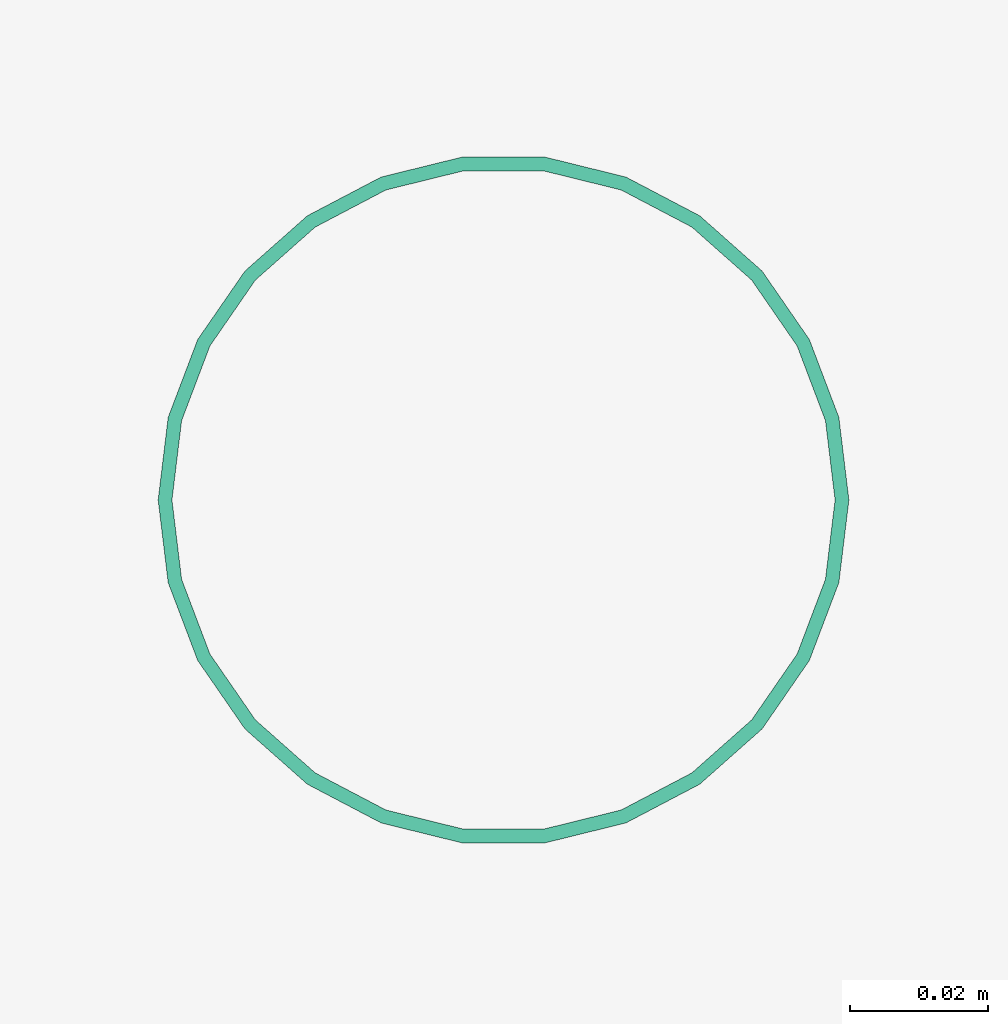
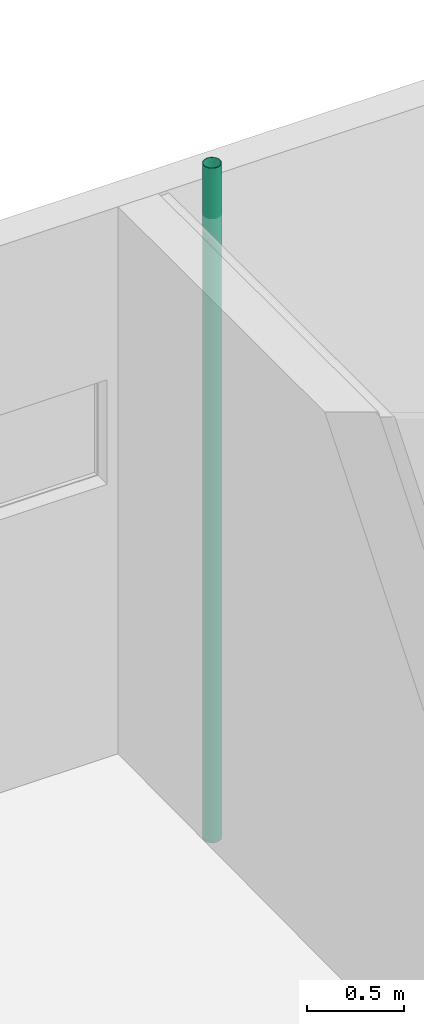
# One storey, part 71 of 77: 1 flow terminal.
"""IFC2X3 building model written with IfcOpenShell, lengths in millimetres."""

from ifc_helpers import new_model, entity, si_unit, converted_unit, derived_unit, direction, frame, origin, origin_2d_with_axis, place, context, subcontext, project, spatial, hollow_circle, extrude, source, transform, mapped, material, element, save


model = new_model("IFC2X3")

# Units and contexts
model_context = context("Model", 3, precision=0.01, world=origin(), true_north=direction((6.12303176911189e-17, 1.0)))
body_context = subcontext(model_context, "Body", "Model", "MODEL_VIEW")
ifc_project = project(units=[si_unit("LENGTHUNIT", "METRE", prefix="MILLI"), si_unit("AREAUNIT", "SQUARE_METRE"), si_unit("VOLUMEUNIT", "CUBIC_METRE"), converted_unit("PLANEANGLEUNIT", "DEGREE", entity("IfcRatioMeasure", 0.0174532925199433), si_unit("PLANEANGLEUNIT", "RADIAN"), dimensions=[0, 0, 0, 0, 0, 0, 0]), si_unit("MASSUNIT", "GRAM", prefix="KILO"), derived_unit("MASSDENSITYUNIT", [(si_unit("MASSUNIT", "GRAM", prefix="KILO"), 1), (si_unit("LENGTHUNIT", "METRE"), -3)]), si_unit("TIMEUNIT", "SECOND"), si_unit("FREQUENCYUNIT", "HERTZ"), si_unit("THERMODYNAMICTEMPERATUREUNIT", "DEGREE_CELSIUS"), derived_unit("THERMALTRANSMITTANCEUNIT", [(si_unit("MASSUNIT", "GRAM", prefix="KILO"), 1), (si_unit("THERMODYNAMICTEMPERATUREUNIT", "KELVIN"), -1), (si_unit("TIMEUNIT", "SECOND"), -3)]), derived_unit("VOLUMETRICFLOWRATEUNIT", [(si_unit("LENGTHUNIT", "METRE"), 3), (si_unit("TIMEUNIT", "SECOND"), -1)]), si_unit("ELECTRICCURRENTUNIT", "AMPERE"), si_unit("ELECTRICVOLTAGEUNIT", "VOLT"), si_unit("POWERUNIT", "WATT"), si_unit("FORCEUNIT", "NEWTON", prefix="KILO"), si_unit("ILLUMINANCEUNIT", "LUX"), si_unit("LUMINOUSFLUXUNIT", "LUMEN"), si_unit("LUMINOUSINTENSITYUNIT", "CANDELA"), derived_unit("USERDEFINED", [(si_unit("MASSUNIT", "GRAM", prefix="KILO"), -1), (si_unit("LENGTHUNIT", "METRE"), -2), (si_unit("TIMEUNIT", "SECOND"), 3), (si_unit("LUMINOUSFLUXUNIT", "LUMEN"), 1)]), derived_unit("LINEARVELOCITYUNIT", [(si_unit("LENGTHUNIT", "METRE"), 1), (si_unit("TIMEUNIT", "SECOND"), -1)]), si_unit("PRESSUREUNIT", "PASCAL"), derived_unit("USERDEFINED", [(si_unit("LENGTHUNIT", "METRE"), -2), (si_unit("MASSUNIT", "GRAM", prefix="KILO"), 1), (si_unit("TIMEUNIT", "SECOND"), -2)])], contexts=[model_context])

# Site, building, storey
site_placement = place(None, origin())
site = spatial("IfcSite", under=ifc_project, at=site_placement, Name="Default", CompositionType="ELEMENT")
building_placement = place(site_placement, origin())
building = spatial("IfcBuilding", under=site, at=building_placement, CompositionType="ELEMENT")
storey_placement = place(building_placement, origin())
storey = spatial("IfcBuildingStorey", under=building, at=storey_placement, Name="1. KORRUS", CompositionType="ELEMENT", Elevation=0.0)

# Flow terminal
ifc_material = material(Name="RAL8023")
shared_shape = source(origin(), body_context, "Body", "SweptSolid", [
    extrude(hollow_circle(Radius=49.9999999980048, WallThickness=2.0, at=origin_2d_with_axis()), frame((-12850.2343602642, 40304.9994344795, -534.524799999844)), (0.0, 0.0, 1.0), 4254.99999999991),
])
flow_terminal_placement = place(storey_placement, origin())
element("IfcFlowTerminal", 1, at=flow_terminal_placement, inside=storey, material=ifc_material, Name="varikatuse vihmaveetoru 5:varikatuse vihmaveetoru 1", ObjectType="varikatuse vihmaveetoru 1", context=body_context, shape_type="MappedRepresentation", body=[
    mapped(shared_shape, transform((0.0, 0.0, 0.0), scale=1.0)),
])

save(model, "model.ifc")
